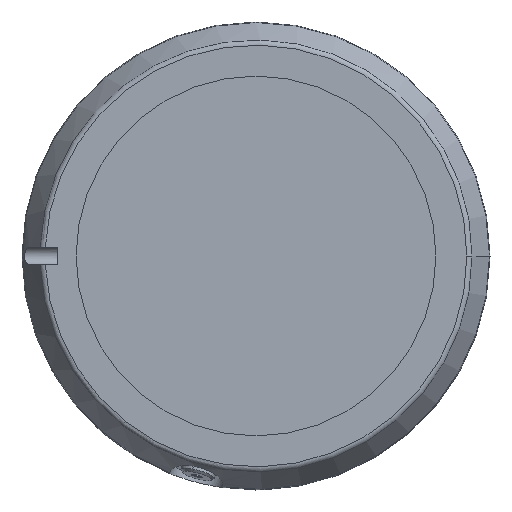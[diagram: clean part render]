
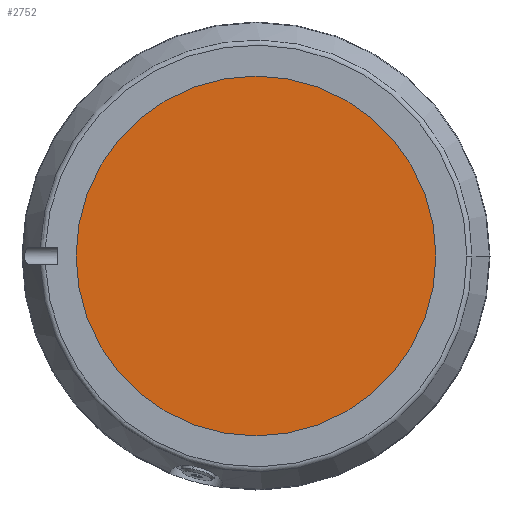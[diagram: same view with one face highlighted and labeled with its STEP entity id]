
A CAD part, left-side view. The second image highlights one B-rep face of the part: STEP entity #2752.
In plain terms, the highlighted planar face has unit normal (-1, 0, 0).
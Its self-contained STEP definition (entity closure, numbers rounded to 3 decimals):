
#118 = AXIS2_PLACEMENT_3D ( 'NONE', #576, #3072, #1305 ) ;
#208 = ORIENTED_EDGE ( 'NONE', *, *, #900, .T. ) ;
#458 = EDGE_CURVE ( 'NONE', #1816, #2309, #470, .T. ) ;
#470 = CIRCLE ( 'NONE', #1520, 61.5 ) ;
#576 = CARTESIAN_POINT ( 'NONE',  ( 2001.5, 0., 1990. ) ) ;
#876 = CARTESIAN_POINT ( 'NONE',  ( 2001.5, 0., 1990. ) ) ;
#900 = EDGE_CURVE ( 'NONE', #2309, #1816, #1830, .T. ) ;
#963 = DIRECTION ( 'NONE',  ( 0., -1., 0. ) ) ;
#1251 = DIRECTION ( 'NONE',  ( 0., -1., 0. ) ) ;
#1305 = DIRECTION ( 'NONE',  ( 0., -1., 0. ) ) ;
#1311 = DIRECTION ( 'NONE',  ( -1., 0., 0. ) ) ;
#1357 = CARTESIAN_POINT ( 'NONE',  ( 2001.5, 0., 1990. ) ) ;
#1520 = AXIS2_PLACEMENT_3D ( 'NONE', #876, #3384, #1251 ) ;
#1523 = AXIS2_PLACEMENT_3D ( 'NONE', #1357, #1311, #963 ) ;
#1816 = VERTEX_POINT ( 'NONE', #4291 ) ;
#1830 = CIRCLE ( 'NONE', #1523, 61.5 ) ;
#1872 = PLANE ( 'NONE',  #118 ) ;
#1918 = FACE_OUTER_BOUND ( 'NONE', #4207, .T. ) ;
#2309 = VERTEX_POINT ( 'NONE', #3691 ) ;
#2752 = ADVANCED_FACE ( 'NONE', ( #1918 ), #1872, .T. ) ;
#3072 = DIRECTION ( 'NONE',  ( -1., 0., 0. ) ) ;
#3384 = DIRECTION ( 'NONE',  ( -1., 0., 0. ) ) ;
#3691 = CARTESIAN_POINT ( 'NONE',  ( 2001.5, 61.5, 1990. ) ) ;
#3804 = ORIENTED_EDGE ( 'NONE', *, *, #458, .T. ) ;
#4207 = EDGE_LOOP ( 'NONE', ( #3804, #208 ) ) ;
#4291 = CARTESIAN_POINT ( 'NONE',  ( 2001.5, -61.5, 1990. ) ) ;
